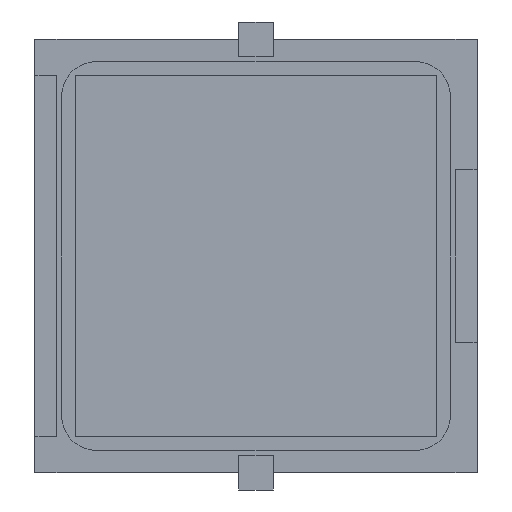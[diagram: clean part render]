
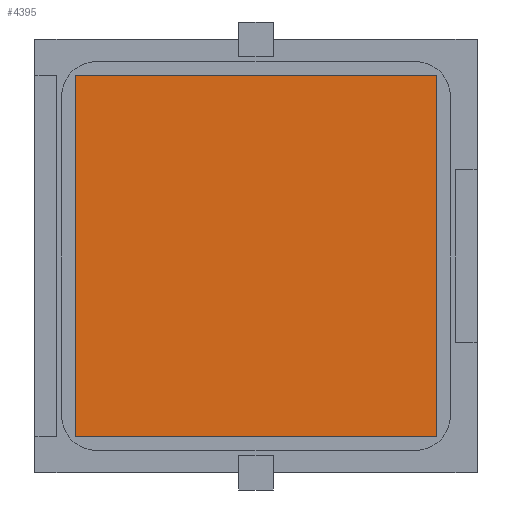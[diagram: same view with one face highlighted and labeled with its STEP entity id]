
A CAD part, front view. The second image highlights one B-rep face of the part: STEP entity #4395.
In plain terms, the highlighted planar face has unit normal (0, -1, 0).
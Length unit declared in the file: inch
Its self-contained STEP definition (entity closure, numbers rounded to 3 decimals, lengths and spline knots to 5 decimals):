
#29 = VERTEX_POINT ( 'NONE', #4038 ) ;
#729 = ORIENTED_EDGE ( 'NONE', *, *, #5160, .F. ) ;
#794 = ORIENTED_EDGE ( 'NONE', *, *, #1122, .F. ) ;
#1037 = DIRECTION ( 'NONE',  ( -1., 0., 0. ) ) ;
#1122 = EDGE_CURVE ( 'NONE', #29, #2980, #5151, .T. ) ;
#1151 = VECTOR ( 'NONE', #5062, 39.37008 ) ;
#1541 = LINE ( 'NONE', #4305, #1911 ) ;
#1626 = DIRECTION ( 'NONE',  ( 0., 1., 0. ) ) ;
#1699 = CARTESIAN_POINT ( 'NONE',  ( 0.41339, -0.005, -0.41339 ) ) ;
#1787 = LINE ( 'NONE', #1699, #1151 ) ;
#1856 = EDGE_LOOP ( 'NONE', ( #794, #729, #2893, #3212 ) ) ;
#1911 = VECTOR ( 'NONE', #1037, 39.37008 ) ;
#2062 = VECTOR ( 'NONE', #5697, 39.37008 ) ;
#2085 = CARTESIAN_POINT ( 'NONE',  ( -0.41339, -0.005, 0.41339 ) ) ;
#2208 = DIRECTION ( 'NONE',  ( 0., 0., 1. ) ) ;
#2670 = CARTESIAN_POINT ( 'NONE',  ( -0.41339, -0.005, 0.41339 ) ) ;
#2893 = ORIENTED_EDGE ( 'NONE', *, *, #5453, .F. ) ;
#2980 = VERTEX_POINT ( 'NONE', #5991 ) ;
#3140 = EDGE_CURVE ( 'NONE', #2980, #5163, #4442, .T. ) ;
#3212 = ORIENTED_EDGE ( 'NONE', *, *, #3140, .F. ) ;
#3363 = CARTESIAN_POINT ( 'NONE',  ( -0.41339, -0.005, -0.41339 ) ) ;
#3437 = CARTESIAN_POINT ( 'NONE',  ( 0.41339, -0.005, 0.41339 ) ) ;
#3592 = PLANE ( 'NONE',  #5377 ) ;
#4038 = CARTESIAN_POINT ( 'NONE',  ( -0.41339, -0.005, -0.41339 ) ) ;
#4094 = DIRECTION ( 'NONE',  ( 1., 0., 0. ) ) ;
#4305 = CARTESIAN_POINT ( 'NONE',  ( -0.41339, -0.005, -0.41339 ) ) ;
#4368 = FACE_OUTER_BOUND ( 'NONE', #1856, .T. ) ;
#4395 = ADVANCED_FACE ( 'NONE', ( #4368 ), #3592, .F. ) ;
#4442 = LINE ( 'NONE', #2670, #5023 ) ;
#5023 = VECTOR ( 'NONE', #4094, 39.37008 ) ;
#5062 = DIRECTION ( 'NONE',  ( 0., 0., -1. ) ) ;
#5151 = LINE ( 'NONE', #3363, #2062 ) ;
#5160 = EDGE_CURVE ( 'NONE', #5978, #29, #1541, .T. ) ;
#5163 = VERTEX_POINT ( 'NONE', #3437 ) ;
#5377 = AXIS2_PLACEMENT_3D ( 'NONE', #2085, #1626, #2208 ) ;
#5453 = EDGE_CURVE ( 'NONE', #5163, #5978, #1787, .T. ) ;
#5680 = CARTESIAN_POINT ( 'NONE',  ( 0.41339, -0.005, -0.41339 ) ) ;
#5697 = DIRECTION ( 'NONE',  ( 0., 0., 1. ) ) ;
#5978 = VERTEX_POINT ( 'NONE', #5680 ) ;
#5991 = CARTESIAN_POINT ( 'NONE',  ( -0.41339, -0.005, 0.41339 ) ) ;
